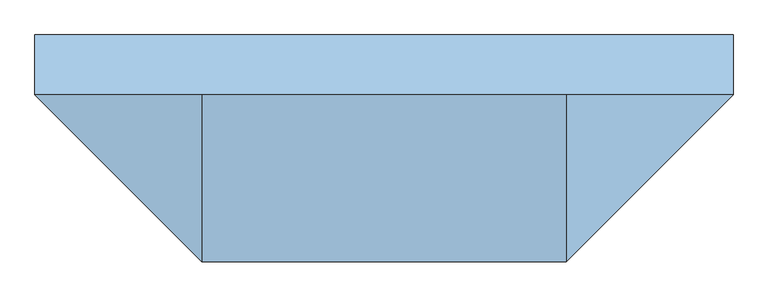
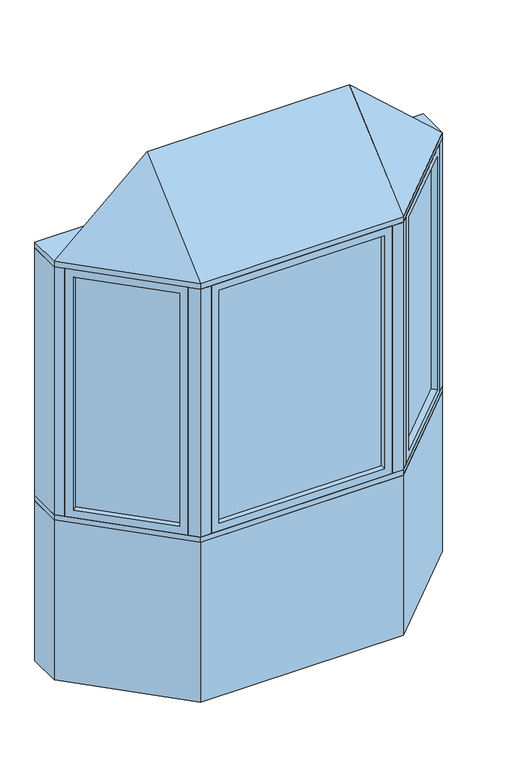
"""IFC4 building model written with IfcOpenShell, lengths in millimetres: window geometry, Pollard_Windows_Tudor Casement Bows and Bays : AML-BAY 45 AFR0512-08-500."""

from ifc_helpers import new_model, si_unit, frame, origin, origin_with_axes, place, context, project, spatial, polyline, outline, extrude, faceted_brep, source, transform, mapped, element, save


def window_f46e62fe(model_context):
    return source(origin(), model_context, "Body", "SolidModel", [
        extrude(outline(polyline([(824.0964271, -104.763169), (498.324814, -430.5347822), (494.7327115, -426.9426797), (820.5043247, -101.1710666), (824.0964271, -104.763169)])), frame((0.0, 0.0, 823.1628), z_axis=(0.0, 0.0, 1.0), x_axis=(1.0, 0.0, 0.0)), (0.0, 0.0, 1.0), 1153.6704),
        faceted_brep([(815.116171, -113.7434252, 835.8628), (833.0766833, -131.7039374, 835.8628), (833.0766833, -131.7039374, 1964.1332), (815.116171, -113.7434252, 1964.1332), (820.5043247, -101.1710666, 823.1628), (824.0964271, -104.763169, 823.1628), (824.0964271, -104.763169, 1976.8332), (820.5043247, -101.1710666, 1976.8332), (793.5635563, -92.1908105, 835.8628), (811.5240686, -110.1513227, 835.8628), (811.5240686, -110.1513227, 1964.1332), (793.5635563, -92.1908105, 1964.1332), (858.4369265, -106.3436941, 799.998), (818.9237996, -66.8305672, 799.998), (818.9237996, -66.8305672, 1999.998), (858.4369265, -106.3436941, 1999.998), (525.2655823, -439.5150383, 1964.1332), (507.3050701, -421.5545261, 1964.1332), (498.324814, -430.5347822, 1976.8332), (494.7327115, -426.9426797, 1976.8332), (503.7129677, -417.9624236, 1964.1332), (485.7524554, -400.0019114, 1964.1332), (460.3922121, -425.3621547, 1999.998), (499.9053391, -464.8752816, 1999.998), (525.2655823, -439.5150383, 835.8628), (507.3050701, -421.5545261, 835.8628), (498.324814, -430.5347822, 823.1628), (494.7327115, -426.9426797, 823.1628), (503.7129677, -417.9624236, 835.8628), (485.7524554, -400.0019114, 835.8628), (460.3922121, -425.3621547, 799.998), (499.9053391, -464.8752816, 799.998)], [[[0, 1, 2, 3]], [[4, 5, 6, 7]], [[8, 9, 10, 11]], [[12, 13, 14, 15]], [[3, 2, 16, 17]], [[7, 6, 18, 19]], [[11, 10, 20, 21]], [[15, 14, 22, 23]], [[17, 16, 24, 25]], [[19, 18, 26, 27]], [[21, 20, 28, 29]], [[23, 22, 30, 31]], [[25, 24, 1, 0]], [[5, 26, 18, 6], [3, 17, 25, 0]], [[27, 26, 5, 4]], [[7, 19, 27, 4], [9, 28, 20, 10]], [[29, 28, 9, 8]], [[13, 30, 22, 14], [11, 21, 29, 8]], [[31, 30, 13, 12]], [[15, 23, 31, 12], [1, 24, 16, 2]]]),
        extrude(outline(polyline([(-498.324814, -430.5347822), (-824.0964271, -104.763169), (-820.5043247, -101.1710666), (-494.7327115, -426.9426797), (-498.324814, -430.5347822)])), frame((0.0, 0.0, 823.1628), z_axis=(0.0, 0.0, 1.0), x_axis=(1.0, 0.0, 0.0)), (0.0, 0.0, 1.0), 1153.6704),
        faceted_brep([(-503.7129677, -417.9624236, 1964.1332), (-485.7524554, -400.0019114, 1964.1332), (-485.7524554, -400.0019114, 835.8628), (-503.7129677, -417.9624236, 835.8628), (-498.324814, -430.5347822, 1976.8332), (-494.7327115, -426.9426797, 1976.8332), (-494.7327115, -426.9426797, 823.1628), (-498.324814, -430.5347822, 823.1628), (-525.2655823, -439.5150383, 1964.1332), (-507.3050701, -421.5545261, 1964.1332), (-507.3050701, -421.5545261, 835.8628), (-525.2655823, -439.5150383, 835.8628), (-460.3922121, -425.3621547, 1999.998), (-499.9053391, -464.8752816, 1999.998), (-499.9053391, -464.8752816, 799.998), (-460.3922121, -425.3621547, 799.998), (-793.5635563, -92.1908105, 835.8628), (-811.5240686, -110.1513227, 835.8628), (-820.5043247, -101.1710666, 823.1628), (-824.0964271, -104.763169, 823.1628), (-815.116171, -113.7434252, 835.8628), (-833.0766833, -131.7039374, 835.8628), (-858.4369265, -106.3436941, 799.998), (-818.9237996, -66.8305672, 799.998), (-793.5635563, -92.1908105, 1964.1332), (-811.5240686, -110.1513227, 1964.1332), (-820.5043247, -101.1710666, 1976.8332), (-824.0964271, -104.763169, 1976.8332), (-815.116171, -113.7434252, 1964.1332), (-833.0766833, -131.7039374, 1964.1332), (-858.4369265, -106.3436941, 1999.998), (-818.9237996, -66.8305672, 1999.998)], [[[0, 1, 2, 3]], [[4, 5, 6, 7]], [[8, 9, 10, 11]], [[12, 13, 14, 15]], [[3, 2, 16, 17]], [[7, 6, 18, 19]], [[11, 10, 20, 21]], [[15, 14, 22, 23]], [[17, 16, 24, 25]], [[19, 18, 26, 27]], [[21, 20, 28, 29]], [[23, 22, 30, 31]], [[15, 23, 31, 12], [1, 24, 16, 2]], [[25, 24, 1, 0]], [[5, 26, 18, 6], [3, 17, 25, 0]], [[27, 26, 5, 4]], [[7, 19, 27, 4], [9, 28, 20, 10]], [[29, 28, 9, 8]], [[13, 30, 22, 14], [11, 21, 29, 8]], [[31, 30, 13, 12]]]),
        extrude(outline(polyline([(391.3852, -474.8306207), (-391.3852, -474.8306207), (-391.3852, -469.7506207), (391.3852, -469.7506207), (391.3852, -474.8306207)])), frame((0.0, 0.0, 823.1628), z_axis=(0.0, 0.0, 1.0), x_axis=(1.0, 0.0, 0.0)), (0.0, 0.0, 1.0), 1153.6704),
        faceted_brep([(378.6852, -474.8306207, 835.8628), (378.6852, -500.2306207, 835.8628), (378.6852, -500.2306207, 1964.1332), (378.6852, -474.8306207, 1964.1332), (391.3852, -469.7506207, 823.1628), (391.3852, -474.8306207, 823.1628), (391.3852, -474.8306207, 1976.8332), (391.3852, -469.7506207, 1976.8332), (378.6852, -444.3506207, 835.8628), (378.6852, -469.7506207, 835.8628), (378.6852, -469.7506207, 1964.1332), (378.6852, -444.3506207, 1964.1332), (414.55, -500.2306207, 799.998), (414.55, -444.3506207, 799.998), (414.55, -444.3506207, 1999.998), (414.55, -500.2306207, 1999.998), (-378.6852, -500.2306207, 1964.1332), (-378.6852, -474.8306207, 1964.1332), (-391.3852, -474.8306207, 1976.8332), (-391.3852, -469.7506207, 1976.8332), (-378.6852, -469.7506207, 1964.1332), (-378.6852, -444.3506207, 1964.1332), (-414.55, -444.3506207, 1999.998), (-414.55, -500.2306207, 1999.998), (-378.6852, -500.2306207, 835.8628), (-378.6852, -474.8306207, 835.8628), (-391.3852, -474.8306207, 823.1628), (-391.3852, -469.7506207, 823.1628), (-378.6852, -469.7506207, 835.8628), (-378.6852, -444.3506207, 835.8628), (-414.55, -444.3506207, 799.998), (-414.55, -500.2306207, 799.998)], [[[0, 1, 2, 3]], [[4, 5, 6, 7]], [[8, 9, 10, 11]], [[12, 13, 14, 15]], [[3, 2, 16, 17]], [[7, 6, 18, 19]], [[11, 10, 20, 21]], [[15, 14, 22, 23]], [[17, 16, 24, 25]], [[19, 18, 26, 27]], [[21, 20, 28, 29]], [[23, 22, 30, 31]], [[15, 23, 31, 12], [1, 24, 16, 2]], [[25, 24, 1, 0]], [[5, 26, 18, 6], [3, 17, 25, 0]], [[27, 26, 5, 4]], [[7, 19, 27, 4], [9, 28, 20, 10]], [[29, 28, 9, 8]], [[13, 30, 22, 14], [11, 21, 29, 8]], [[31, 30, 13, 12]]]),
        faceted_brep([(890.0, -74.7806207, 2025.398), (464.55, -500.2306207, 2025.398), (-464.55, -500.2306207, 2025.398), (-890.0, -74.7806207, 2025.398), (-464.55, -74.7806207, 2406.398), (464.55, -74.7806207, 2406.398)], [[[0, 1, 2, 3]], [[3, 2, 4]], [[2, 1, 5, 4]], [[1, 0, 5]], [[0, 3, 4, 5]]]),
        extrude(outline(polyline([(-890.0, 77.6193793), (890.0, 77.6193793), (890.0, -74.7806207), (464.55, -500.2306207), (-464.55, -500.2306207), (-890.0, -74.7806207), (-890.0, 77.6193793)])), frame((0.0, 0.0, 1999.998), z_axis=(0.0, 0.0, 1.0), x_axis=(1.0, 0.0, 0.0)), (0.0, 0.0, 1.0), 25.4),
        extrude(outline(polyline([(-890.0, -74.7806207), (-890.0, 77.6193793), (-826.8738531, 77.6193793), (-826.8738531, -74.7806207), (-858.4369265, -106.3436941), (-890.0, -74.7806207)])), frame((0.0, 0.0, 799.998), z_axis=(0.0, 0.0, 1.0), x_axis=(1.0, 0.0, 0.0)), (0.0, 0.0, 1.0), 1200.0),
        extrude(outline(polyline([(890.0, 77.6193793), (890.0, -74.7806207), (858.4369265, -106.3436941), (826.8738531, -74.7806207), (826.8738531, 77.6193793), (890.0, 77.6193793)])), frame((0.0, 0.0, 799.998), z_axis=(0.0, 0.0, 1.0), x_axis=(1.0, 0.0, 0.0)), (0.0, 0.0, 1.0), 1200.0),
        extrude(outline(polyline([(464.55, -500.2306207), (414.55, -500.2306207), (414.55, -450.2306207), (443.8393219, -450.2306207), (464.55, -429.5199425), (499.9053391, -464.8752816), (464.55, -500.2306207)])), frame((0.0, 0.0, 799.998), z_axis=(0.0, 0.0, 1.0), x_axis=(1.0, 0.0, 0.0)), (0.0, 0.0, 1.0), 1200.0),
        extrude(outline(polyline([(-464.55, -500.2306207), (-499.9053391, -464.8752816), (-464.55, -429.5199425), (-443.8393219, -450.2306207), (-414.55, -450.2306207), (-414.55, -500.2306207), (-464.55, -500.2306207)])), frame((0.0, 0.0, 799.998), z_axis=(0.0, 0.0, 1.0), x_axis=(1.0, 0.0, 0.0)), (0.0, 0.0, 1.0), 1200.0),
        extrude(outline(polyline([(-464.55, -500.2306207), (-890.0, -74.7806207), (-890.0, 77.6193793), (-826.8738531, 77.6193793), (-401.4238531, -347.8306207), (401.4238531, -347.8306207), (826.8738531, 77.6193793), (890.0, 77.6193793), (890.0, -74.7806207), (464.55, -500.2306207), (-464.55, -500.2306207)])), frame((0.0, 0.0, 774.598), z_axis=(0.0, 0.0, 1.0), x_axis=(1.0, 0.0, 0.0)), (0.0, 0.0, 1.0), 25.4),
        extrude(outline(polyline([(-890.0, -74.7806207), (-890.0, 77.6193793), (-826.8738531, 77.6193793), (-401.4238531, -347.8306207), (401.4238531, -347.8306207), (826.8738531, 77.6193793), (890.0, 77.6193793), (890.0, -74.7806207), (464.55, -500.2306207), (-464.55, -500.2306207), (-890.0, -74.7806207)])), origin_with_axes(), (0.0, 0.0, 1.0), 774.598),
    ])


if __name__ == "__main__":
    model = new_model("IFC4")
    model_context = context("Model", 3, world=origin())
    ifc_project = project(units=[si_unit("LENGTHUNIT", "METRE", prefix="MILLI")], contexts=[model_context])
    site = spatial("IfcSite", under=ifc_project)
    building = spatial("IfcBuilding", under=site)
    placement = place(None, origin())
    window_shape = window_f46e62fe(model_context)
    element("IfcWindow", 1, ObjectType="Pollard_Windows_Tudor Casement Bows and Bays : AML-BAY 45 AFR0512-08-500", at=placement, inside=building, context=model_context, shape_type="MappedRepresentation", body=[
        mapped(window_shape, transform((0.0, 0.0, 0.0), x_axis=(1.0, 0.0, 0.0), y_axis=(0.0, 1.0, 0.0), z_axis=(0.0, 0.0, 1.0))),
    ])
    save(model, "model.ifc")
